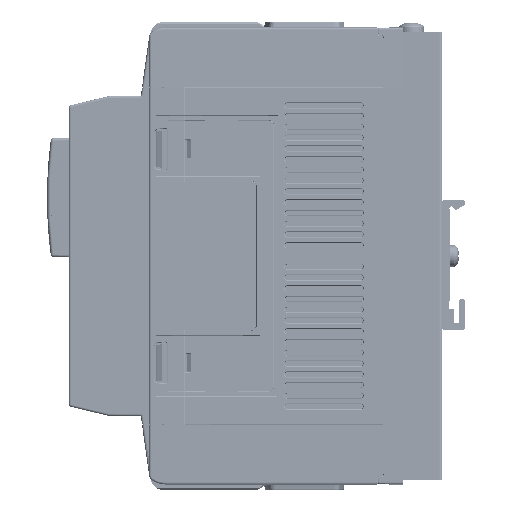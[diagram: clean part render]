
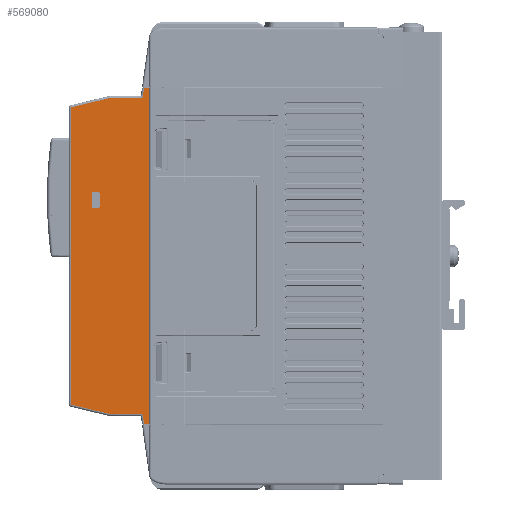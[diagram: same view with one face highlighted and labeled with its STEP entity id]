
A CAD part, front view. The second image highlights one B-rep face of the part: STEP entity #569080.
In plain terms, the highlighted planar face has unit normal (-0.009, -1, 0).
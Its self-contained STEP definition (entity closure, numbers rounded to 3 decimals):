
#568473=CARTESIAN_POINT('',(-81.129,-26.108,-55.296));
#568474=VERTEX_POINT('',#568473);
#568475=CARTESIAN_POINT('',(-66.956,-26.232,-58.698));
#568476=VERTEX_POINT('',#568475);
#568477=CARTESIAN_POINT('',(-81.129,-26.108,-55.296));
#568478=DIRECTION('',(0.972,-0.008,-0.233));
#568479=VECTOR('',#568478,14.576);
#568480=LINE('',#568477,#568479);
#568481=EDGE_CURVE('',#568474,#568476,#568480,.T.);
#568612=CARTESIAN_POINT('',(-81.282,-26.107,-55.101));
#568613=VERTEX_POINT('',#568612);
#568614=CARTESIAN_POINT('',(-81.082,-26.109,-55.101));
#568615=DIRECTION('',(-0.009,-1.,0.));
#568616=DIRECTION('',(-1.,0.009,0.));
#568617=AXIS2_PLACEMENT_3D('',#568614,#568615,#568616);
#568618=ELLIPSE('',#568617,0.2,0.2);
#568619=EDGE_CURVE('',#568613,#568474,#568618,.T.);
#568848=CARTESIAN_POINT('',(-81.282,-26.107,55.101));
#568849=VERTEX_POINT('',#568848);
#568850=CARTESIAN_POINT('',(-81.282,-26.107,55.101));
#568851=DIRECTION('',(0.0,0.0,-1.0));
#568852=VECTOR('',#568851,110.202);
#568853=LINE('',#568850,#568852);
#568854=EDGE_CURVE('',#568849,#568613,#568853,.T.);
#568911=CARTESIAN_POINT('',(-52.25,-26.36,0.));
#568912=DIRECTION('',(0.009,1.,0.));
#568913=DIRECTION('',(0.0,0.0,1.0));
#568914=AXIS2_PLACEMENT_3D('',#568911,#568912,#568913);
#568915=PLANE('',#568914);
#568916=CARTESIAN_POINT('',(-81.129,-26.108,55.296));
#568917=VERTEX_POINT('',#568916);
#568918=CARTESIAN_POINT('',(-66.956,-26.232,58.698));
#568919=VERTEX_POINT('',#568918);
#568920=CARTESIAN_POINT('',(-81.129,-26.108,55.296));
#568921=DIRECTION('',(0.972,-0.008,0.233));
#568922=VECTOR('',#568921,14.576);
#568923=LINE('',#568920,#568922);
#568924=EDGE_CURVE('',#568917,#568919,#568923,.T.);
#568925=ORIENTED_EDGE('',*,*,#568924,.F.);
#568926=CARTESIAN_POINT('',(-81.082,-26.109,55.101));
#568927=DIRECTION('',(0.009,1.,0.));
#568928=DIRECTION('',(-1.,0.009,0.));
#568929=AXIS2_PLACEMENT_3D('',#568926,#568927,#568928);
#568930=ELLIPSE('',#568929,0.2,0.2);
#568931=EDGE_CURVE('',#568849,#568917,#568930,.T.);
#568932=ORIENTED_EDGE('',*,*,#568931,.F.);
#568933=ORIENTED_EDGE('',*,*,#568854,.T.);
#568934=ORIENTED_EDGE('',*,*,#568619,.T.);
#568935=ORIENTED_EDGE('',*,*,#568481,.T.);
#568936=CARTESIAN_POINT('',(-55.532,-26.332,-58.798));
#568937=VERTEX_POINT('',#568936);
#568938=CARTESIAN_POINT('',(-66.956,-26.232,-58.698));
#568939=DIRECTION('',(1.,-0.009,-0.009));
#568940=VECTOR('',#568939,11.425);
#568941=LINE('',#568938,#568940);
#568942=EDGE_CURVE('',#568476,#568937,#568941,.T.);
#568943=ORIENTED_EDGE('',*,*,#568942,.T.);
#568944=CARTESIAN_POINT('',(-54.452,-26.341,-59.747));
#568945=VERTEX_POINT('',#568944);
#568946=CARTESIAN_POINT('',(-55.542,-26.332,-59.898));
#568947=DIRECTION('',(0.009,1.,0.));
#568948=DIRECTION('',(1.,-0.009,0.));
#568949=AXIS2_PLACEMENT_3D('',#568946,#568947,#568948);
#568950=ELLIPSE('',#568949,1.1,1.1);
#568951=EDGE_CURVE('',#568937,#568945,#568950,.T.);
#568952=ORIENTED_EDGE('',*,*,#568951,.T.);
#568953=CARTESIAN_POINT('',(-54.056,-26.345,-62.604));
#568954=VERTEX_POINT('',#568953);
#568955=CARTESIAN_POINT('',(-54.452,-26.341,-59.747));
#568956=DIRECTION('',(0.137,-0.001,-0.991));
#568957=VECTOR('',#568956,2.885);
#568958=LINE('',#568955,#568957);
#568959=EDGE_CURVE('',#568945,#568954,#568958,.T.);
#568960=ORIENTED_EDGE('',*,*,#568959,.T.);
#568961=CARTESIAN_POINT('',(-52.25,-26.36,-62.62));
#568962=VERTEX_POINT('',#568961);
#568963=CARTESIAN_POINT('',(-54.056,-26.345,-62.604));
#568964=DIRECTION('',(1.,-0.009,-0.009));
#568965=VECTOR('',#568964,1.806);
#568966=LINE('',#568963,#568965);
#568967=EDGE_CURVE('',#568962,#568954,#568966,.F.);
#568968=ORIENTED_EDGE('',*,*,#568967,.F.);
#568969=CARTESIAN_POINT('',(-52.25,-26.36,62.62));
#568970=VERTEX_POINT('',#568969);
#568971=CARTESIAN_POINT('',(-52.25,-26.36,62.62));
#568972=DIRECTION('',(0.0,0.0,-1.0));
#568973=VECTOR('',#568972,125.239);
#568974=LINE('',#568971,#568973);
#568975=EDGE_CURVE('',#568970,#568962,#568974,.T.);
#568976=ORIENTED_EDGE('',*,*,#568975,.F.);
#568977=CARTESIAN_POINT('',(-54.056,-26.345,62.604));
#568978=VERTEX_POINT('',#568977);
#568979=CARTESIAN_POINT('',(-54.056,-26.345,62.604));
#568980=DIRECTION('',(1.,-0.009,0.009));
#568981=VECTOR('',#568980,1.806);
#568982=LINE('',#568979,#568981);
#568983=EDGE_CURVE('',#568970,#568978,#568982,.F.);
#568984=ORIENTED_EDGE('',*,*,#568983,.T.);
#568985=CARTESIAN_POINT('',(-54.452,-26.341,59.747));
#568986=VERTEX_POINT('',#568985);
#568987=CARTESIAN_POINT('',(-54.452,-26.341,59.747));
#568988=DIRECTION('',(0.137,-0.001,0.991));
#568989=VECTOR('',#568988,2.885);
#568990=LINE('',#568987,#568989);
#568991=EDGE_CURVE('',#568986,#568978,#568990,.T.);
#568992=ORIENTED_EDGE('',*,*,#568991,.F.);
#568993=CARTESIAN_POINT('',(-55.532,-26.332,58.798));
#568994=VERTEX_POINT('',#568993);
#568995=CARTESIAN_POINT('',(-55.542,-26.332,59.898));
#568996=DIRECTION('',(-0.009,-1.,0.));
#568997=DIRECTION('',(1.,-0.009,0.));
#568998=AXIS2_PLACEMENT_3D('',#568995,#568996,#568997);
#568999=ELLIPSE('',#568998,1.1,1.1);
#569000=EDGE_CURVE('',#568994,#568986,#568999,.T.);
#569001=ORIENTED_EDGE('',*,*,#569000,.F.);
#569002=CARTESIAN_POINT('',(-66.956,-26.232,58.698));
#569003=DIRECTION('',(1.,-0.009,0.009));
#569004=VECTOR('',#569003,11.425);
#569005=LINE('',#569002,#569004);
#569006=EDGE_CURVE('',#568919,#568994,#569005,.T.);
#569007=ORIENTED_EDGE('',*,*,#569006,.F.);
#569008=EDGE_LOOP('',(#568925,#568932,#568933,#568934,#568935,#568943,#568952,#568960,#568968,#568976,#568984,#568992,#569001,#569007));
#569009=FACE_OUTER_BOUND('',#569008,.T.);
#569010=CARTESIAN_POINT('',(-70.63,-26.2,23.345));
#569011=VERTEX_POINT('',#569010);
#569012=CARTESIAN_POINT('',(-70.63,-26.2,18.455));
#569013=VERTEX_POINT('',#569012);
#569014=CARTESIAN_POINT('',(-70.63,-26.2,23.345));
#569015=DIRECTION('',(0.0,0.0,-1.0));
#569016=VECTOR('',#569015,4.89);
#569017=LINE('',#569014,#569016);
#569018=EDGE_CURVE('',#569011,#569013,#569017,.T.);
#569019=ORIENTED_EDGE('',*,*,#569018,.T.);
#569020=CARTESIAN_POINT('',(-71.13,-26.196,17.955));
#569021=VERTEX_POINT('',#569020);
#569022=CARTESIAN_POINT('',(-71.13,-26.196,18.455));
#569023=DIRECTION('',(-0.009,-1.,0.));
#569024=DIRECTION('',(0.832,-0.007,-0.555));
#569025=AXIS2_PLACEMENT_3D('',#569022,#569023,#569024);
#569026=ELLIPSE('',#569025,0.5,0.5);
#569027=EDGE_CURVE('',#569013,#569021,#569026,.F.);
#569028=ORIENTED_EDGE('',*,*,#569027,.T.);
#569029=CARTESIAN_POINT('',(-73.02,-26.179,17.955));
#569030=VERTEX_POINT('',#569029);
#569031=CARTESIAN_POINT('',(-71.13,-26.196,17.955));
#569032=DIRECTION('',(-1.,0.009,0.));
#569033=VECTOR('',#569032,1.89);
#569034=LINE('',#569031,#569033);
#569035=EDGE_CURVE('',#569021,#569030,#569034,.T.);
#569036=ORIENTED_EDGE('',*,*,#569035,.T.);
#569037=CARTESIAN_POINT('',(-73.52,-26.175,18.455));
#569038=VERTEX_POINT('',#569037);
#569039=CARTESIAN_POINT('',(-73.02,-26.179,18.455));
#569040=DIRECTION('',(-0.009,-1.,0.));
#569041=DIRECTION('',(-0.447,0.004,-0.894));
#569042=AXIS2_PLACEMENT_3D('',#569039,#569040,#569041);
#569043=ELLIPSE('',#569042,0.5,0.5);
#569044=EDGE_CURVE('',#569030,#569038,#569043,.F.);
#569045=ORIENTED_EDGE('',*,*,#569044,.T.);
#569046=CARTESIAN_POINT('',(-73.52,-26.175,23.345));
#569047=VERTEX_POINT('',#569046);
#569048=CARTESIAN_POINT('',(-73.52,-26.175,18.455));
#569049=DIRECTION('',(0.0,0.0,1.0));
#569050=VECTOR('',#569049,4.889);
#569051=LINE('',#569048,#569050);
#569052=EDGE_CURVE('',#569038,#569047,#569051,.T.);
#569053=ORIENTED_EDGE('',*,*,#569052,.T.);
#569054=CARTESIAN_POINT('',(-73.02,-26.179,23.845));
#569055=VERTEX_POINT('',#569054);
#569056=CARTESIAN_POINT('',(-73.02,-26.179,23.345));
#569057=DIRECTION('',(0.009,1.,0.));
#569058=DIRECTION('',(-0.447,0.004,0.894));
#569059=AXIS2_PLACEMENT_3D('',#569056,#569057,#569058);
#569060=ELLIPSE('',#569059,0.5,0.5);
#569061=EDGE_CURVE('',#569055,#569047,#569060,.F.);
#569062=ORIENTED_EDGE('',*,*,#569061,.F.);
#569063=CARTESIAN_POINT('',(-71.13,-26.196,23.845));
#569064=VERTEX_POINT('',#569063);
#569065=CARTESIAN_POINT('',(-71.13,-26.196,23.845));
#569066=DIRECTION('',(-1.,0.009,0.));
#569067=VECTOR('',#569066,1.89);
#569068=LINE('',#569065,#569067);
#569069=EDGE_CURVE('',#569064,#569055,#569068,.T.);
#569070=ORIENTED_EDGE('',*,*,#569069,.F.);
#569071=CARTESIAN_POINT('',(-71.13,-26.196,23.345));
#569072=DIRECTION('',(0.009,1.,0.));
#569073=DIRECTION('',(0.832,-0.007,0.555));
#569074=AXIS2_PLACEMENT_3D('',#569071,#569072,#569073);
#569075=ELLIPSE('',#569074,0.5,0.5);
#569076=EDGE_CURVE('',#569011,#569064,#569075,.F.);
#569077=ORIENTED_EDGE('',*,*,#569076,.F.);
#569078=EDGE_LOOP('',(#569019,#569028,#569036,#569045,#569053,#569062,#569070,#569077));
#569079=FACE_BOUND('',#569078,.T.);
#569080=ADVANCED_FACE('',(#569009,#569079),#568915,.F.);
